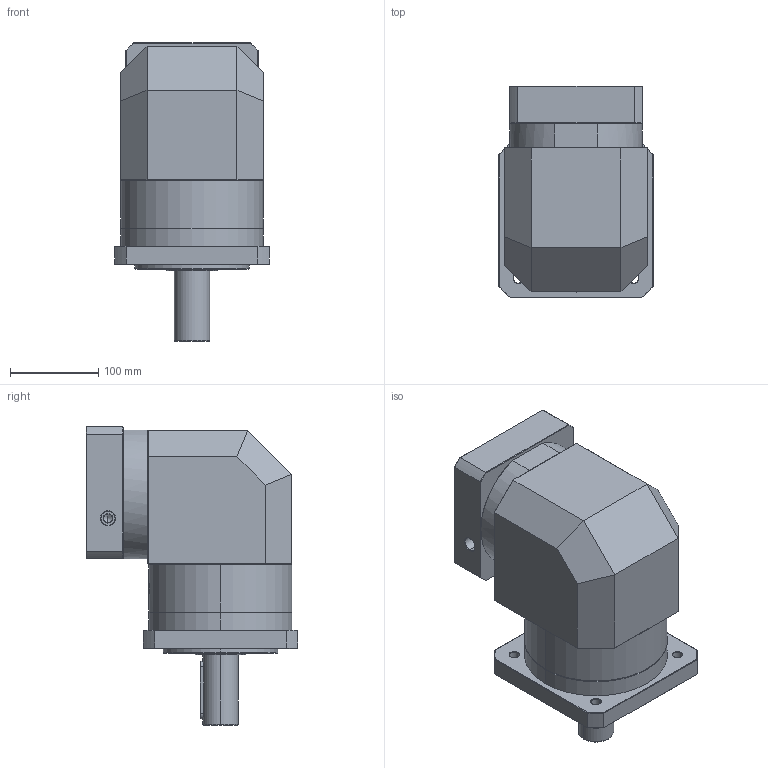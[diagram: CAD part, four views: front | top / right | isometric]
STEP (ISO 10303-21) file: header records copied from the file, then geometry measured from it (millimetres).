
FILE_DESCRIPTION (( 'STEP AP214' ), '1' );
FILE_NAME ('ZFR160A-D40-L1-P2-22-110-145-M8.step', '2023-09-03T08:56:16', ( '' ), ( '' ), 'SwSTEP 2.0', 'SolidWorks 2016', '' );
FILE_SCHEMA (( 'AUTOMOTIVE_DESIGN' ));
Length unit declared in the file: millimetre
Products named in the file (1): ZFR160A-D40-L1-P2-22-110-145-M8
Bounding box: 175 x 239.5 x 338.7 mm (x, y, z)
Volume: 6596048.5 mm3; surface area: 431581.8 mm2
Topology: 6 solids, 6 shells, 2231 faces, 5902 edges, 3778 vertices
Faces by surface type: plane 1048, cylinder 441, bspline 413, cone 307, torus 22
Entity records: 127746 total; most frequent: CARTESIAN_POINT 53490, ORIENTED_EDGE 11744, DIRECTION 8459, EDGE_CURVE 5872, VERTEX_POINT 3778, VECTOR 3117, LINE 3117, AXIS2_PLACEMENT_3D 2671
